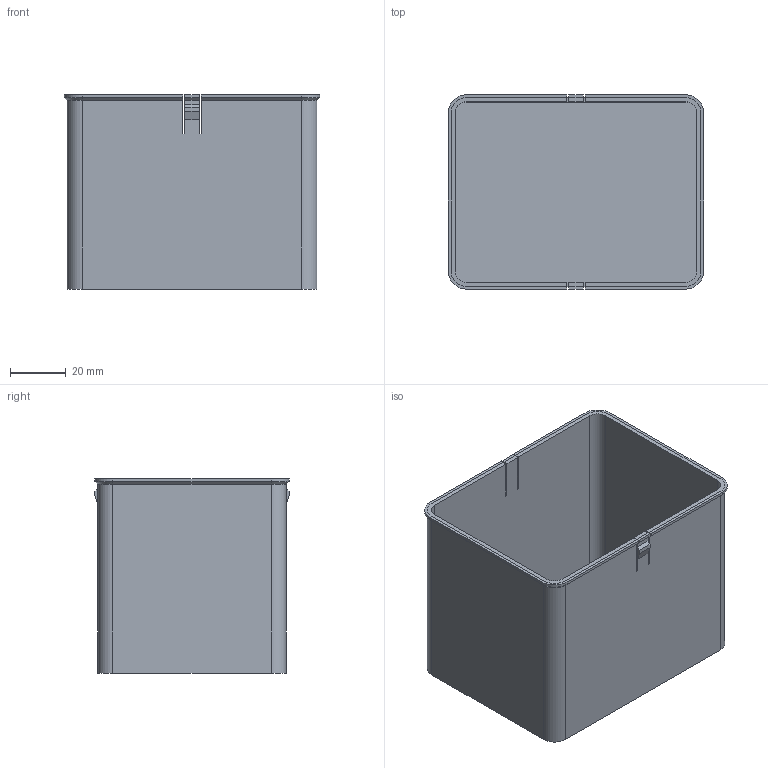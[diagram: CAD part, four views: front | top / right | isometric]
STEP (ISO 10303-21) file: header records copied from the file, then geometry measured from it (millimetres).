
FILE_DESCRIPTION(('Open CASCADE Model'),'2;1');
FILE_NAME('Open CASCADE Shape Model','2026-11-02T07:42:17',('Author'),( 'Open CASCADE'),'Open CASCADE STEP processor 7.8','Open CASCADE 7.8' ,'Unknown');
FILE_SCHEMA(('AUTOMOTIVE_DESIGN { 1 0 10303 214 1 1 1 1 }'));
Length unit declared in the file: millimetre
Products named in the file (1): Open CASCADE STEP translator 7.8 3
Bounding box: 92 x 70 x 70 mm (x, y, z)
Volume: 43424.1 mm3; surface area: 54429.2 mm2
Topology: 1 solids, 1 shells, 74 faces, 200 edges, 128 vertices
Faces by surface type: plane 58, cylinder 12, cone 4
Entity records: 4900 total; most frequent: CARTESIAN_POINT 887, DIRECTION 744, LINE 524, VECTOR 524, ORIENTED_EDGE 400, PCURVE 400, DEFINITIONAL_REPRESENTATION 400, EDGE_CURVE 200
